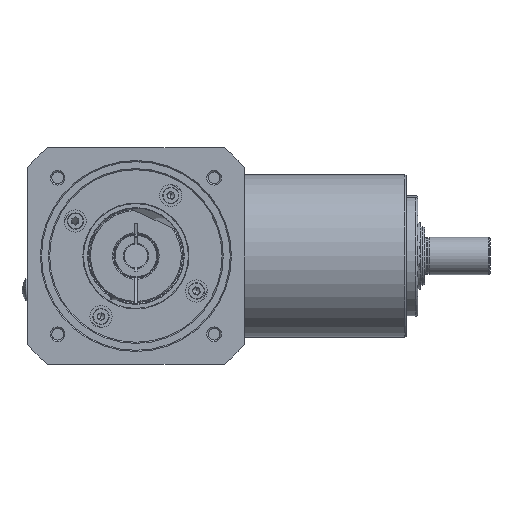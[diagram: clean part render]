
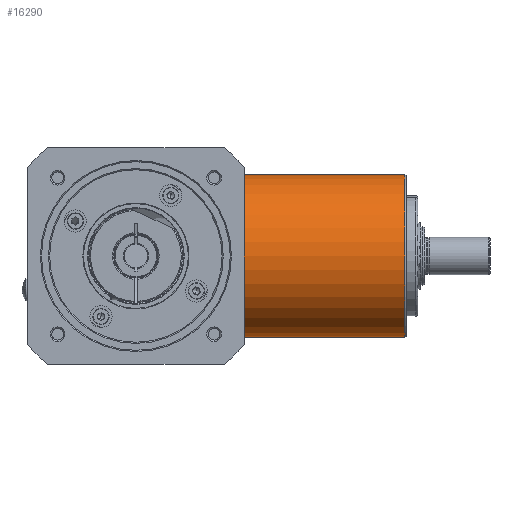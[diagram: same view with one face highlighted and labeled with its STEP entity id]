
A CAD part, front view. The second image highlights one B-rep face of the part: STEP entity #16290.
In plain terms, the highlighted cylindrical face has radius 35 mm (diameter 70 mm), a partial arc.
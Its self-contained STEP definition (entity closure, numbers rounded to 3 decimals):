
#167 = DIRECTION ( 'NONE',  ( 1., 0., 0. ) ) ;
#384 = VERTEX_POINT ( 'NONE', #3538 ) ;
#598 = VERTEX_POINT ( 'NONE', #17640 ) ;
#3538 = CARTESIAN_POINT ( 'NONE',  ( 115.5, 0., -35. ) ) ;
#3982 = DIRECTION ( 'NONE',  ( 0., 0., -1. ) ) ;
#4205 = FACE_OUTER_BOUND ( 'NONE', #17332, .T. ) ;
#6943 = VECTOR ( 'NONE', #167, 1000. ) ;
#7582 = CARTESIAN_POINT ( 'NONE',  ( 134.464, 0., 0. ) ) ;
#10674 = DIRECTION ( 'NONE',  ( 0., 0., 1. ) ) ;
#12720 = CIRCLE ( 'NONE', #20640, 35. ) ;
#13348 = ORIENTED_EDGE ( 'NONE', *, *, #42633, .T. ) ;
#16050 = DIRECTION ( 'NONE',  ( 1., 0., 0. ) ) ;
#16290 = ADVANCED_FACE ( 'NONE', ( #4205 ), #28246, .T. ) ;
#16297 = ORIENTED_EDGE ( 'NONE', *, *, #36830, .T. ) ;
#17281 = LINE ( 'NONE', #30981, #6943 ) ;
#17332 = EDGE_LOOP ( 'NONE', ( #19413, #16297, #31901, #13348 ) ) ;
#17640 = CARTESIAN_POINT ( 'NONE',  ( 115.5, 0., 35. ) ) ;
#19396 = VECTOR ( 'NONE', #16050, 1000. ) ;
#19413 = ORIENTED_EDGE ( 'NONE', *, *, #31865, .F. ) ;
#20640 = AXIS2_PLACEMENT_3D ( 'NONE', #42362, #38097, #20978 ) ;
#20978 = DIRECTION ( 'NONE',  ( 0., 0., -1. ) ) ;
#23754 = EDGE_CURVE ( 'NONE', #40820, #384, #39692, .T. ) ;
#26059 = VERTEX_POINT ( 'NONE', #34588 ) ;
#28246 = CYLINDRICAL_SURFACE ( 'NONE', #43276, 35. ) ;
#28912 = DIRECTION ( 'NONE',  ( 1., 0., 0. ) ) ;
#29969 = CARTESIAN_POINT ( 'NONE',  ( 134.464, 0., -35. ) ) ;
#30981 = CARTESIAN_POINT ( 'NONE',  ( 134.464, 0., 35. ) ) ;
#31865 = EDGE_CURVE ( 'NONE', #26059, #598, #17281, .T. ) ;
#31901 = ORIENTED_EDGE ( 'NONE', *, *, #23754, .T. ) ;
#34588 = CARTESIAN_POINT ( 'NONE',  ( 36.5, 0., 35. ) ) ;
#36830 = EDGE_CURVE ( 'NONE', #26059, #40820, #12720, .T. ) ;
#38097 = DIRECTION ( 'NONE',  ( 1., 0., 0. ) ) ;
#38992 = AXIS2_PLACEMENT_3D ( 'NONE', #41051, #41494, #10674 ) ;
#39692 = LINE ( 'NONE', #29969, #19396 ) ;
#40820 = VERTEX_POINT ( 'NONE', #42684 ) ;
#41051 = CARTESIAN_POINT ( 'NONE',  ( 115.5, 0., 0. ) ) ;
#41494 = DIRECTION ( 'NONE',  ( -1., 0., 0. ) ) ;
#42362 = CARTESIAN_POINT ( 'NONE',  ( 36.5, 0., 0. ) ) ;
#42581 = CIRCLE ( 'NONE', #38992, 35. ) ;
#42633 = EDGE_CURVE ( 'NONE', #384, #598, #42581, .T. ) ;
#42684 = CARTESIAN_POINT ( 'NONE',  ( 36.5, 0., -35. ) ) ;
#43276 = AXIS2_PLACEMENT_3D ( 'NONE', #7582, #28912, #3982 ) ;
